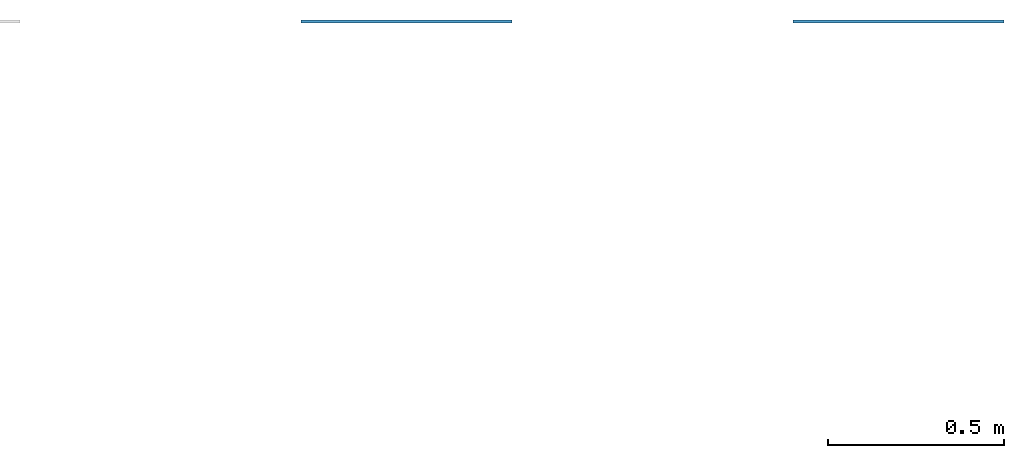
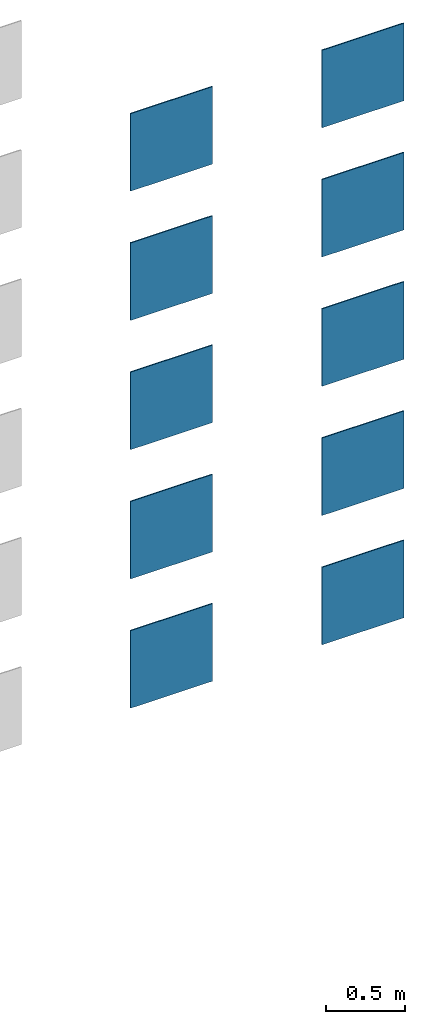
# One storey, part 2 of 2: 10 walls.
"""IFC2X3 building model written with IfcOpenShell, lengths in metres."""

from ifc_helpers import new_model, entity, si_unit, converted_unit, derived_unit, direction, frame, frame_2d, origin, place, context, subcontext, project, spatial, rectangle, extrude, material, layer, layer_set, layer_usage, type_object, element, save


model = new_model("IFC2X3")

# Units and contexts
model_context = context("Model", 3, precision=1e-05, world=origin(), true_north=direction((6.12303176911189e-17, 1.0)))
context_of_model = context(None, 3, precision=1e-05, world=origin(), true_north=direction((6.12303176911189e-17, 1.0)))
body_context = subcontext(model_context, "Body", "Model", "MODEL_VIEW")
ifc_project = project(units=[si_unit("LENGTHUNIT", "METRE"), si_unit("AREAUNIT", "SQUARE_METRE"), si_unit("VOLUMEUNIT", "CUBIC_METRE"), converted_unit("PLANEANGLEUNIT", "DEGREE", entity("IfcRatioMeasure", 0.0174532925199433), si_unit("PLANEANGLEUNIT", "RADIAN"), dimensions=[0, 0, 0, 0, 0, 0, 0]), si_unit("MASSUNIT", "GRAM", prefix="KILO"), si_unit("TIMEUNIT", "SECOND"), si_unit("FREQUENCYUNIT", "HERTZ"), si_unit("THERMODYNAMICTEMPERATUREUNIT", "DEGREE_CELSIUS"), derived_unit("THERMALTRANSMITTANCEUNIT", [(si_unit("MASSUNIT", "GRAM", prefix="KILO"), 1), (si_unit("THERMODYNAMICTEMPERATUREUNIT", "KELVIN"), -1), (si_unit("TIMEUNIT", "SECOND"), -3)]), derived_unit("VOLUMETRICFLOWRATEUNIT", [(si_unit("LENGTHUNIT", "METRE"), 3), (si_unit("TIMEUNIT", "SECOND"), -1)]), si_unit("ELECTRICCURRENTUNIT", "AMPERE"), si_unit("ELECTRICVOLTAGEUNIT", "VOLT"), si_unit("POWERUNIT", "WATT"), si_unit("FORCEUNIT", "NEWTON", prefix="KILO"), si_unit("ILLUMINANCEUNIT", "LUX"), si_unit("LUMINOUSFLUXUNIT", "LUMEN"), si_unit("LUMINOUSINTENSITYUNIT", "CANDELA"), si_unit("PRESSUREUNIT", "PASCAL")], contexts=[model_context, context_of_model])

# Site, building, storey
site_placement = place(None, origin())
site = spatial("IfcSite", under=ifc_project, at=site_placement, Name="Default", CompositionType="ELEMENT")
building_placement = place(site_placement, origin())
building = spatial("IfcBuilding", under=site, at=building_placement, CompositionType="ELEMENT")
storey_placement = place(building_placement, origin())
storey = spatial("IfcBuildingStorey", under=building, at=storey_placement, Name="BENACO FLOOR TILES", CompositionType="ELEMENT", Elevation=0.0)

# Walls
ifc_material_1 = material(Name="VIVES VODEVIL CORAL 20x20")
ifc_layer_1 = layer(ifc_material_1, 0.008)
ifc_layer_set_1 = layer_set([ifc_layer_1], Name="Muro básico:VIVES VODEVIL CORAL 20x20")
ifc_layer_usage_1 = layer_usage(ifc_layer_set_1, "AXIS2", "NEGATIVE", 0.004)
wall_type_1 = type_object("IfcWallType", Name="Muro básico:VIVES VODEVIL CORAL 20x20", PredefinedType="STANDARD", material=ifc_layer_set_1)
wall_1_placement = place(storey_placement, frame((20.7278886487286, 0.618172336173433, 2.7)))
element("IfcWallStandardCase", 1, at=wall_1_placement, inside=storey, type_object=wall_type_1, material=ifc_layer_usage_1, Name="Muro básico:VIVES VODEVIL CORAL 20x20", ObjectType="Muro básico:VIVES VODEVIL CORAL 20x20", context=body_context, shape_type="SweptSolid", body=[
    extrude(rectangle(XDim=0.600000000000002, YDim=0.00800000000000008, at=frame_2d((0.300000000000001, -8.67361737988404e-18), x_axis=(-1.0, 0.0))), origin(), (0.0, 0.0, 1.0), 0.6),
])
ifc_material_2 = material(Name="VIVES VODEVIL MAR 20x20")
ifc_layer_2 = layer(ifc_material_2, 0.008)
ifc_layer_set_2 = layer_set([ifc_layer_2], Name="Muro básico:VIVES VODEVIL MAR 20x20")
ifc_layer_usage_2 = layer_usage(ifc_layer_set_2, "AXIS2", "NEGATIVE", 0.004)
wall_type_2 = type_object("IfcWallType", Name="Muro básico:VIVES VODEVIL MAR 20x20", PredefinedType="STANDARD", material=ifc_layer_set_2)
wall_2_placement = place(storey_placement, frame((22.1278886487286, 0.618172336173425, 2.7)))
element("IfcWallStandardCase", 2, at=wall_2_placement, inside=storey, type_object=wall_type_2, material=ifc_layer_usage_2, Name="Muro básico:VIVES VODEVIL MAR 20x20", ObjectType="Muro básico:VIVES VODEVIL MAR 20x20", context=body_context, shape_type="SweptSolid", body=[
    extrude(rectangle(XDim=0.600000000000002, YDim=0.00800000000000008, at=frame_2d((0.300000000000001, -8.67361737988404e-18), x_axis=(-1.0, 0.0))), origin(), (0.0, 0.0, 1.0), 0.6),
])
ifc_material_3 = material(Name="VIVES BENACO CORAL 20x20")
ifc_layer_3 = layer(ifc_material_3, 0.008)
ifc_layer_set_3 = layer_set([ifc_layer_3], Name="Muro básico:VIVES BENACO CORAL 20x20")
ifc_layer_usage_3 = layer_usage(ifc_layer_set_3, "AXIS2", "NEGATIVE", 0.004)
wall_type_3 = type_object("IfcWallType", Name="Muro básico:VIVES BENACO CORAL 20x20", PredefinedType="STANDARD", material=ifc_layer_set_3)
wall_3_placement = place(storey_placement, frame((20.7278886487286, 0.618172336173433, 1.7)))
element("IfcWallStandardCase", 3, at=wall_3_placement, inside=storey, type_object=wall_type_3, material=ifc_layer_usage_3, Name="Muro básico:VIVES BENACO CORAL 20x20", ObjectType="Muro básico:VIVES BENACO CORAL 20x20", context=body_context, shape_type="SweptSolid", body=[
    extrude(rectangle(XDim=0.600000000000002, YDim=0.00800000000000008, at=frame_2d((0.300000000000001, -8.67361737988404e-18), x_axis=(-1.0, 0.0))), origin(), (0.0, 0.0, 1.0), 0.6),
])
ifc_material_4 = material(Name="VIVES BENACO MAR 20x20")
ifc_layer_4 = layer(ifc_material_4, 0.008)
ifc_layer_set_4 = layer_set([ifc_layer_4], Name="Muro básico:VIVES BENACO MAR 20x20")
ifc_layer_usage_4 = layer_usage(ifc_layer_set_4, "AXIS2", "NEGATIVE", 0.004)
wall_type_4 = type_object("IfcWallType", Name="Muro básico:VIVES BENACO MAR 20x20", PredefinedType="STANDARD", material=ifc_layer_set_4)
wall_4_placement = place(storey_placement, frame((22.1278886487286, 0.618172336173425, 1.7)))
element("IfcWallStandardCase", 4, at=wall_4_placement, inside=storey, type_object=wall_type_4, material=ifc_layer_usage_4, Name="Muro básico:VIVES BENACO MAR 20x20", ObjectType="Muro básico:VIVES BENACO MAR 20x20", context=body_context, shape_type="SweptSolid", body=[
    extrude(rectangle(XDim=0.599999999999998, YDim=0.00800000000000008, at=frame_2d((0.299999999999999, -8.67361737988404e-18), x_axis=(-1.0, 0.0))), origin(), (0.0, 0.0, 1.0), 0.6),
])
ifc_material_5 = material(Name="VIVES CAROLE CORAL 20x20")
ifc_layer_5 = layer(ifc_material_5, 0.008)
ifc_layer_set_5 = layer_set([ifc_layer_5], Name="Muro básico:VIVES CAROLE CORAL 20x20")
ifc_layer_usage_5 = layer_usage(ifc_layer_set_5, "AXIS2", "NEGATIVE", 0.004)
wall_type_5 = type_object("IfcWallType", Name="Muro básico:VIVES CAROLE CORAL 20x20", PredefinedType="STANDARD", material=ifc_layer_set_5)
wall_5_placement = place(storey_placement, frame((20.7278886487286, 0.618172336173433, 0.7)))
element("IfcWallStandardCase", 5, at=wall_5_placement, inside=storey, type_object=wall_type_5, material=ifc_layer_usage_5, Name="Muro básico:VIVES CAROLE CORAL 20x20", ObjectType="Muro básico:VIVES CAROLE CORAL 20x20", context=body_context, shape_type="SweptSolid", body=[
    extrude(rectangle(XDim=0.600000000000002, YDim=0.00800000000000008, at=frame_2d((0.300000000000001, -8.67361737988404e-18), x_axis=(-1.0, 0.0))), origin(), (0.0, 0.0, 1.0), 0.6),
])
ifc_material_6 = material(Name="VIVES CAROLE MAR 20x20")
ifc_layer_6 = layer(ifc_material_6, 0.008)
ifc_layer_set_6 = layer_set([ifc_layer_6], Name="Muro básico:VIVES CAROLE MAR 20x20 2")
ifc_layer_usage_6 = layer_usage(ifc_layer_set_6, "AXIS2", "NEGATIVE", 0.004)
wall_type_6 = type_object("IfcWallType", Name="Muro básico:VIVES CAROLE MAR 20x20 2", PredefinedType="STANDARD", material=ifc_layer_set_6)
wall_6_placement = place(storey_placement, frame((22.1278886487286, 0.618172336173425, 0.7)))
element("IfcWallStandardCase", 6, at=wall_6_placement, inside=storey, type_object=wall_type_6, material=ifc_layer_usage_6, Name="Muro básico:VIVES CAROLE MAR 20x20 2", ObjectType="Muro básico:VIVES CAROLE MAR 20x20 2", context=body_context, shape_type="SweptSolid", body=[
    extrude(rectangle(XDim=0.599999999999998, YDim=0.00800000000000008, at=frame_2d((0.299999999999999, -8.67361737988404e-18), x_axis=(-1.0, 0.0))), origin(), (0.0, 0.0, 1.0), 0.6),
])
ifc_material_7 = material(Name="VIVES PIGNETO CORAL 20x20")
ifc_layer_7 = layer(ifc_material_7, 0.008)
ifc_layer_set_7 = layer_set([ifc_layer_7], Name="Muro básico:VIVES PIGNETO CORAL 20x20")
ifc_layer_usage_7 = layer_usage(ifc_layer_set_7, "AXIS2", "NEGATIVE", 0.004)
wall_type_7 = type_object("IfcWallType", Name="Muro básico:VIVES PIGNETO CORAL 20x20", PredefinedType="STANDARD", material=ifc_layer_set_7)
wall_7_placement = place(storey_placement, frame((20.7278886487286, 0.618172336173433, -0.300000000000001)))
element("IfcWallStandardCase", 7, at=wall_7_placement, inside=storey, type_object=wall_type_7, material=ifc_layer_usage_7, Name="Muro básico:VIVES PIGNETO CORAL 20x20", ObjectType="Muro básico:VIVES PIGNETO CORAL 20x20", context=body_context, shape_type="SweptSolid", body=[
    extrude(rectangle(XDim=0.600000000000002, YDim=0.00800000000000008, at=frame_2d((0.300000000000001, -8.67361737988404e-18), x_axis=(-1.0, 0.0))), origin(), (0.0, 0.0, 1.0), 0.6),
])
ifc_material_8 = material(Name="VIVES PIGNETO MAR 20x20")
ifc_layer_8 = layer(ifc_material_8, 0.008)
ifc_layer_set_8 = layer_set([ifc_layer_8], Name="Muro básico:VIVES PIGNETO MAR 20x20")
ifc_layer_usage_8 = layer_usage(ifc_layer_set_8, "AXIS2", "NEGATIVE", 0.004)
wall_type_8 = type_object("IfcWallType", Name="Muro básico:VIVES PIGNETO MAR 20x20", PredefinedType="STANDARD", material=ifc_layer_set_8)
wall_8_placement = place(storey_placement, frame((22.1278886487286, 0.618172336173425, -0.300000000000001)))
element("IfcWallStandardCase", 8, at=wall_8_placement, inside=storey, type_object=wall_type_8, material=ifc_layer_usage_8, Name="Muro básico:VIVES PIGNETO MAR 20x20", ObjectType="Muro básico:VIVES PIGNETO MAR 20x20", context=body_context, shape_type="SweptSolid", body=[
    extrude(rectangle(XDim=0.599999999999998, YDim=0.00800000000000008, at=frame_2d((0.299999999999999, -8.67361737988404e-18), x_axis=(-1.0, 0.0))), origin(), (0.0, 0.0, 1.0), 0.6),
])
ifc_material_9 = material(Name="VIVES TERCELLO CORAL 20x20")
ifc_layer_9 = layer(ifc_material_9, 0.008)
ifc_layer_set_9 = layer_set([ifc_layer_9], Name="Muro básico:VIVES TERCELLO CORAL 20x20")
ifc_layer_usage_9 = layer_usage(ifc_layer_set_9, "AXIS2", "NEGATIVE", 0.004)
wall_type_9 = type_object("IfcWallType", Name="Muro básico:VIVES TERCELLO CORAL 20x20", PredefinedType="STANDARD", material=ifc_layer_set_9)
wall_9_placement = place(storey_placement, frame((20.7278886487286, 0.618172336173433, -1.3)))
element("IfcWallStandardCase", 9, at=wall_9_placement, inside=storey, type_object=wall_type_9, material=ifc_layer_usage_9, Name="Muro básico:VIVES TERCELLO CORAL 20x20", ObjectType="Muro básico:VIVES TERCELLO CORAL 20x20", context=body_context, shape_type="SweptSolid", body=[
    extrude(rectangle(XDim=0.600000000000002, YDim=0.00800000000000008, at=frame_2d((0.300000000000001, -8.67361737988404e-18), x_axis=(-1.0, 0.0))), origin(), (0.0, 0.0, 1.0), 0.6),
])
ifc_material_10 = material(Name="VIVES TERCELLO MAR 20x20")
ifc_layer_10 = layer(ifc_material_10, 0.008)
ifc_layer_set_10 = layer_set([ifc_layer_10], Name="Muro básico:VIVES TERCELLO MAR 20x20")
ifc_layer_usage_10 = layer_usage(ifc_layer_set_10, "AXIS2", "NEGATIVE", 0.004)
wall_type_10 = type_object("IfcWallType", Name="Muro básico:VIVES TERCELLO MAR 20x20", PredefinedType="STANDARD", material=ifc_layer_set_10)
wall_10_placement = place(storey_placement, frame((22.1278886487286, 0.618172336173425, -1.3)))
element("IfcWallStandardCase", 10, at=wall_10_placement, inside=storey, type_object=wall_type_10, material=ifc_layer_usage_10, Name="Muro básico:VIVES TERCELLO MAR 20x20", ObjectType="Muro básico:VIVES TERCELLO MAR 20x20", context=body_context, shape_type="SweptSolid", body=[
    extrude(rectangle(XDim=0.599999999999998, YDim=0.00800000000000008, at=frame_2d((0.299999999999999, -8.67361737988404e-18), x_axis=(-1.0, 0.0))), origin(), (0.0, 0.0, 1.0), 0.6),
])

save(model, "model.ifc")
